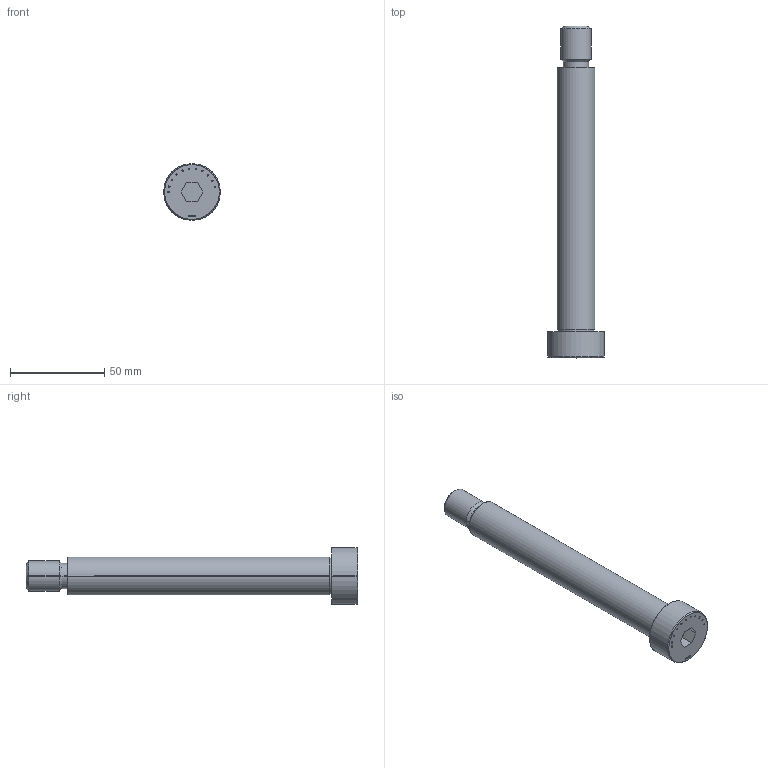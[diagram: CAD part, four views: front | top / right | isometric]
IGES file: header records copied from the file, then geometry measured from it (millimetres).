
Start section: SolidWorks IGES file using analytic representation for surfaces
Global section: file name: D:\Cleonir_arquivos\MT_15_07\Parafusos de Corpo Retificado\PRT20140.igs; native system: SolidWorks 2013; preprocessor: SolidWorks 2013; author: Cleonir; date: 130730.134512; units: millimetre
Bounding box: 30 x 176 x 30 mm (x, y, z)
Surface area: 12893.8 mm2 (no closed solid volume)
Topology: 0 solids, 0 shells, 297 faces, 2908 edges, 2908 vertices
Faces by surface type: bspline 270, revolution 27
